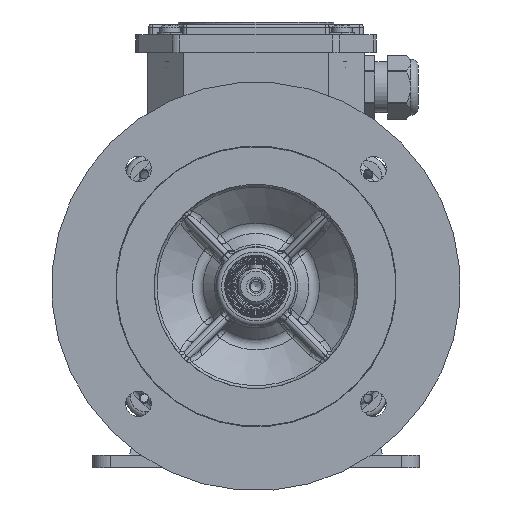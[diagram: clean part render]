
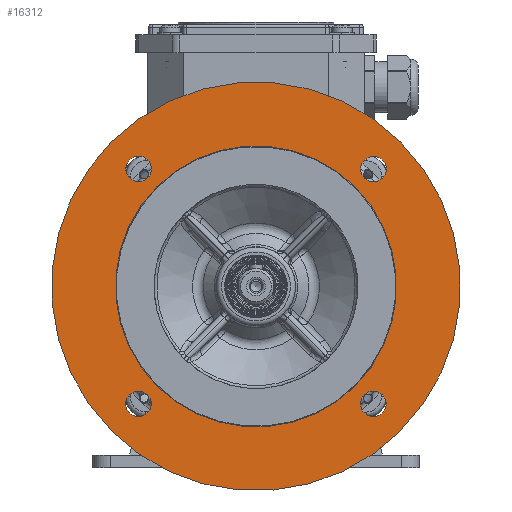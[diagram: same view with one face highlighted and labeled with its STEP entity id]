
A CAD part, front view. The second image highlights one B-rep face of the part: STEP entity #16312.
In plain terms, the highlighted planar face has unit normal (0, -1, 0).
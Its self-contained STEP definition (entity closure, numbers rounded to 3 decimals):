
#13802=PLANE('',#55666);
#16312=ADVANCED_FACE('',(#19230,#19231,#19232,#19233,#19234,#19235),#13802,
 .T.);
#19230=FACE_BOUND('',#20988,.T.);
#19231=FACE_BOUND('',#20989,.T.);
#19232=FACE_BOUND('',#20990,.T.);
#19233=FACE_BOUND('',#20991,.T.);
#19234=FACE_BOUND('',#20992,.T.);
#19235=FACE_BOUND('',#20993,.T.);
#20988=EDGE_LOOP('',(#27778));
#20989=EDGE_LOOP('',(#27779));
#20990=EDGE_LOOP('',(#27780));
#20991=EDGE_LOOP('',(#27781));
#20992=EDGE_LOOP('',(#27782));
#20993=EDGE_LOOP('',(#27783));
#27778=ORIENTED_EDGE('',*,*,#45983,.F.);
#27779=ORIENTED_EDGE('',*,*,#45984,.F.);
#27780=ORIENTED_EDGE('',*,*,#45985,.F.);
#27781=ORIENTED_EDGE('',*,*,#45986,.F.);
#27782=ORIENTED_EDGE('',*,*,#45987,.T.);
#27783=ORIENTED_EDGE('',*,*,#45988,.T.);
#40322=VERTEX_POINT('',#81749);
#40323=VERTEX_POINT('',#81751);
#40324=VERTEX_POINT('',#81753);
#40325=VERTEX_POINT('',#81755);
#40326=VERTEX_POINT('',#81757);
#40327=VERTEX_POINT('',#81759);
#45983=EDGE_CURVE('',#40322,#40322,#52210,.T.);
#45984=EDGE_CURVE('',#40323,#40323,#52211,.T.);
#45985=EDGE_CURVE('',#40324,#40324,#52212,.T.);
#45986=EDGE_CURVE('',#40325,#40325,#52213,.T.);
#45987=EDGE_CURVE('',#40326,#40326,#52214,.T.);
#45988=EDGE_CURVE('',#40327,#40327,#52215,.T.);
#52210=CIRCLE('',#55660,5.);
#52211=CIRCLE('',#55661,5.);
#52212=CIRCLE('',#55662,5.);
#52213=CIRCLE('',#55663,5.);
#52214=CIRCLE('',#55664,55.);
#52215=CIRCLE('',#55665,80.);
#55660=AXIS2_PLACEMENT_3D('',#81748,#63304,#63305);
#55661=AXIS2_PLACEMENT_3D('',#81750,#63306,#63307);
#55662=AXIS2_PLACEMENT_3D('',#81752,#63308,#63309);
#55663=AXIS2_PLACEMENT_3D('',#81754,#63310,#63311);
#55664=AXIS2_PLACEMENT_3D('',#81756,#63312,#63313);
#55665=AXIS2_PLACEMENT_3D('',#81758,#63314,#63315);
#55666=AXIS2_PLACEMENT_3D('',#81760,#63316,#63317);
#63304=DIRECTION('',(0.,-1.,0.));
#63305=DIRECTION('',(0.708,0.,0.707));
#63306=DIRECTION('',(0.,-1.,0.));
#63307=DIRECTION('',(-0.707,0.,0.708));
#63308=DIRECTION('',(0.,-1.,0.));
#63309=DIRECTION('',(-0.708,0.,-0.707));
#63310=DIRECTION('',(0.,-1.,0.));
#63311=DIRECTION('',(0.707,0.,-0.708));
#63312=DIRECTION('',(0.,1.,0.));
#63313=DIRECTION('',(0.707,0.,-0.708));
#63314=DIRECTION('',(0.,-1.,0.));
#63315=DIRECTION('',(0.707,0.,-0.708));
#63316=DIRECTION('',(0.,-1.,0.));
#63317=DIRECTION('',(-0.707,0.,0.708));
#81748=CARTESIAN_POINT('',(-45.934,-47.,45.99));
#81749=CARTESIAN_POINT('',(-42.396,-47.,49.523));
#81750=CARTESIAN_POINT('',(-45.99,-47.,-45.934));
#81751=CARTESIAN_POINT('',(-49.523,-47.,-42.396));
#81752=CARTESIAN_POINT('',(45.934,-47.,-45.99));
#81753=CARTESIAN_POINT('',(42.396,-47.,-49.523));
#81754=CARTESIAN_POINT('',(45.99,-47.,45.934));
#81755=CARTESIAN_POINT('',(49.523,-47.,42.396));
#81756=CARTESIAN_POINT('',(0.,-47.,0.));
#81757=CARTESIAN_POINT('',(38.867,-47.,-38.915));
#81758=CARTESIAN_POINT('',(0.,-47.,0.));
#81759=CARTESIAN_POINT('',(56.534,-47.,-56.603));
#81760=CARTESIAN_POINT('',(0.,-47.,0.));
